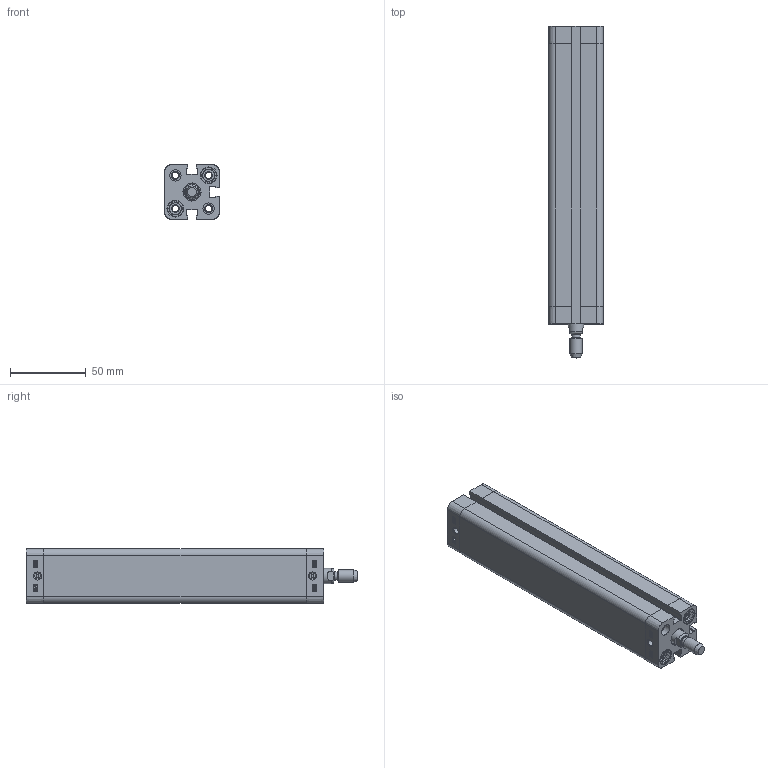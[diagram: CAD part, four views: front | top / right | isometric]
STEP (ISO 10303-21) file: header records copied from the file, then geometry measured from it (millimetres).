
FILE_DESCRIPTION((''),'2;1');
FILE_NAME('T:\Archivio Inventor\- CATALOGHI 2012\SERIE P - NUOVA\PDM\PDM020\PDM020.---.GS.M\STEP\PDM020.160.GS.M.stp','2013-01-30T11:00:57',('Administrator'),(''),'Autodesk Inventor 2012','Autodesk Inventor 2012','');
FILE_SCHEMA(('CONFIG_CONTROL_DESIGN'));
Length unit declared in the file: millimetre
Products named in the file (1): PDM020.160.GS.M
Bounding box: 36.3 x 219.6 x 36.3 mm (x, y, z)
Volume: 127392.1 mm3; surface area: 74318 mm2
Topology: 1 solids, 3 shells, 489 faces, 1225 edges, 798 vertices
Faces by surface type: plane 245, bspline 94, cylinder 88, cone 50, torus 12
Full cylindrical faces by diameter (mm): 1.75 x2, 4.134 x10, 5.8 x1, 7.5 x4, 7.55 x2, 8 x9, 9 x1, 10 x1, 10.8 x4, 11.1 x4, 11.4 x1, 20 x1, 22.3 x1, 22.5 x1
Entity records: 15051 total; most frequent: CARTESIAN_POINT 3734, ORIENTED_EDGE 2232, DIRECTION 1950, EDGE_CURVE 1116, VERTEX_POINT 782, VECTOR 670, LINE 670, EDGE_LOOP 652
